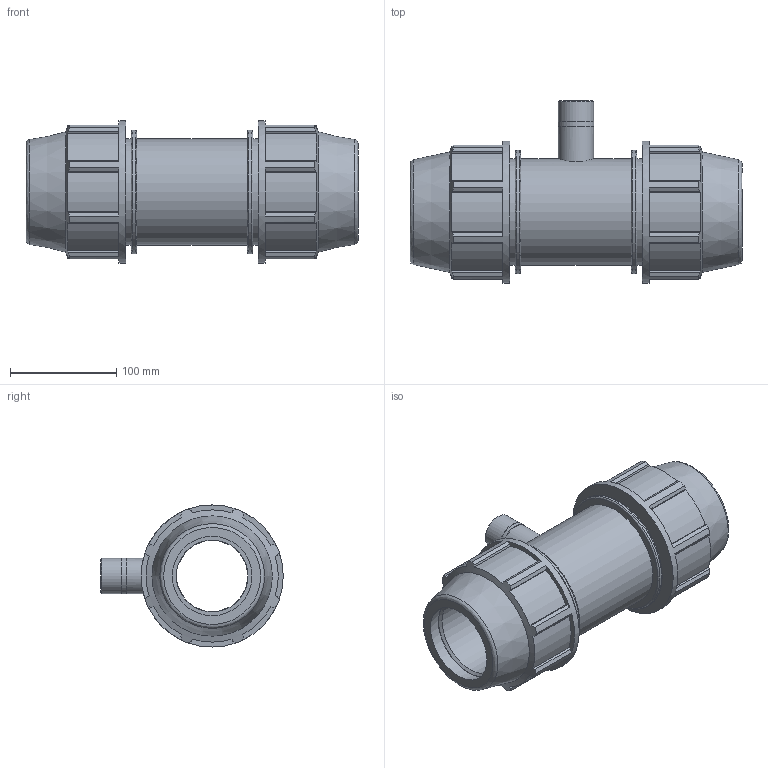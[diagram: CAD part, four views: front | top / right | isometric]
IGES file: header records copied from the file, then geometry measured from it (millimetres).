
Global section: file name: 0781060750100A.ipt; native system: Autodesk Inventor 2015; preprocessor: unknown; author: KIM; date: 20170622.103124; units: millimetre
Bounding box: 313 x 172 x 134 mm (x, y, z)
Volume: 1772972.5 mm3; surface area: 235430.2 mm2
Topology: 1 solids, 1 shells, 140 faces, 391 edges, 265 vertices
Faces by surface type: plane 95, cylinder 26, revolution 14, cone 5
Full cylindrical faces by diameter (mm): 33.249 x2, 33.914 x1, 100.5 x3, 116.58 x2, 134 x2
